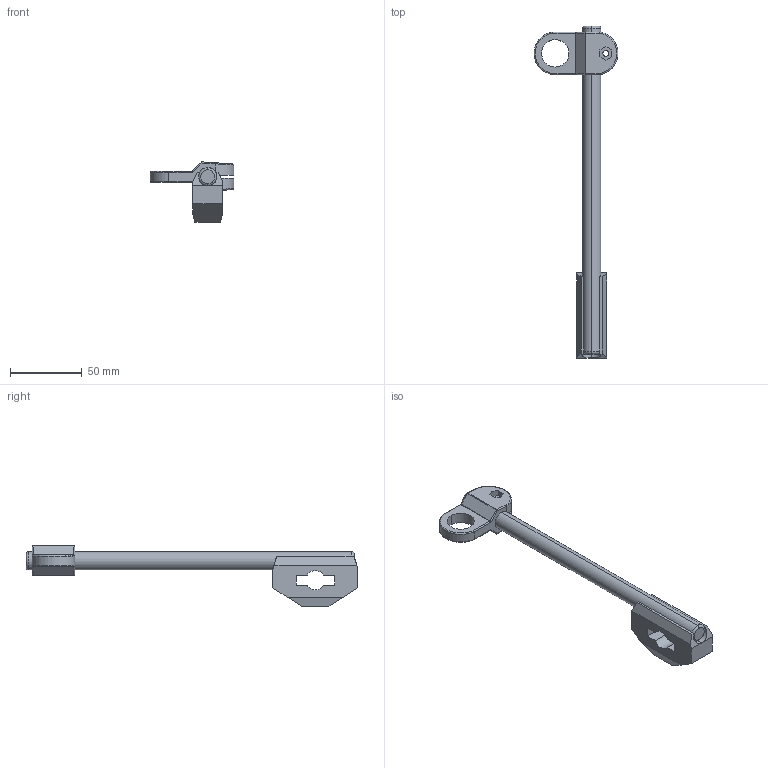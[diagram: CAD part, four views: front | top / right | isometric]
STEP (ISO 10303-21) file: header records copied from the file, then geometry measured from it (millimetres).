
FILE_DESCRIPTION((''),'2;1');
FILE_NAME('7352CM-AM_ASM','2023-03-23T',('jenni.wallner'),(''),'PRO/ENGINEER BY PARAMETRIC TECHNOLOGY CORPORATION, 2012420','PRO/ENGINEER BY PARAMETRIC TECHNOLOGY CORPORATION, 2012420','');
FILE_SCHEMA(('CONFIG_CONTROL_DESIGN'));
Length unit declared in the file: inch
Products named in the file (5): 532249; 807-1844; 807-1391; ASM0001_ASM; 7352CM-AM_ASM
Assembly tree (4 placements, depth 3):
  7352CM-AM_ASM
    ASM0001_ASM
      532249
      807-1844
      807-1391
Bounding box: 58.37 x 231.33 x 42.02 mm (x, y, z)
Volume: 66594.9 mm3; surface area: 24508 mm2
Topology: 3 solids, 3 shells, 101 faces, 246 edges, 152 vertices
Faces by surface type: plane 43, cylinder 40, bspline 10, torus 6, cone 2
Entity records: 3845 total; most frequent: CARTESIAN_POINT 1398, ORIENTED_EDGE 488, DIRECTION 475, EDGE_CURVE 244, AXIS2_PLACEMENT_3D 168, VERTEX_POINT 152, VECTOR 139, LINE 139
